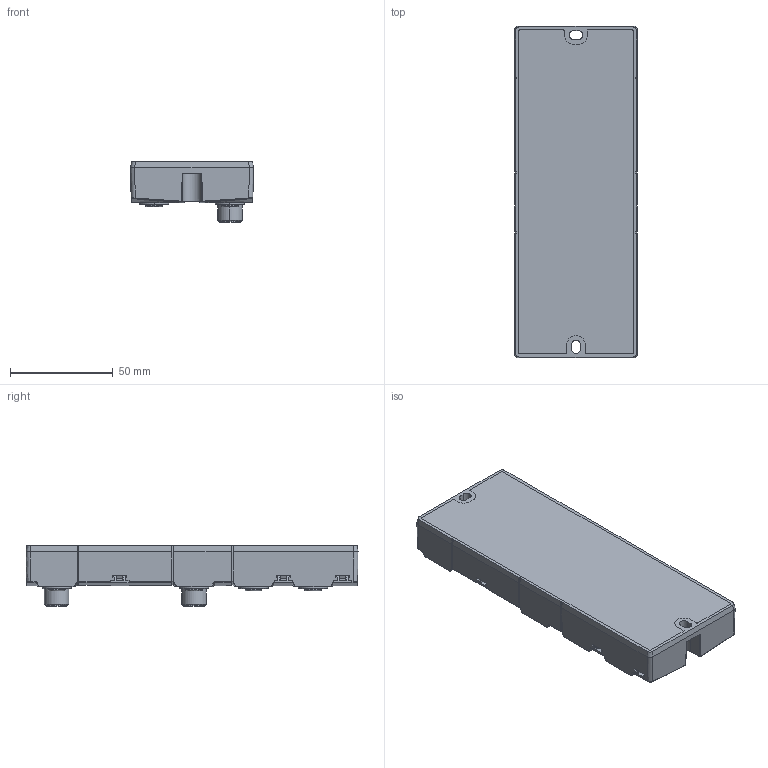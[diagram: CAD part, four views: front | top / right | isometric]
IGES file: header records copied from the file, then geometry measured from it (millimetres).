
Start section:  PTC IGES file: 2035776
Global section: file name: 2035776; native system: Creo Parametric by PTC Inc.; preprocessor: 2019292; author: s.mayer; organization: Unknown; date: 20240208.085224; units: millimetre
Bounding box: 59.9 x 161.9 x 29.6 mm (x, y, z)
Surface area: 39677 mm2 (no closed solid volume)
Topology: 0 solids, 0 shells, 1245 faces, 6780 edges, 6730 vertices
Faces by surface type: revolution 689, bspline 556
